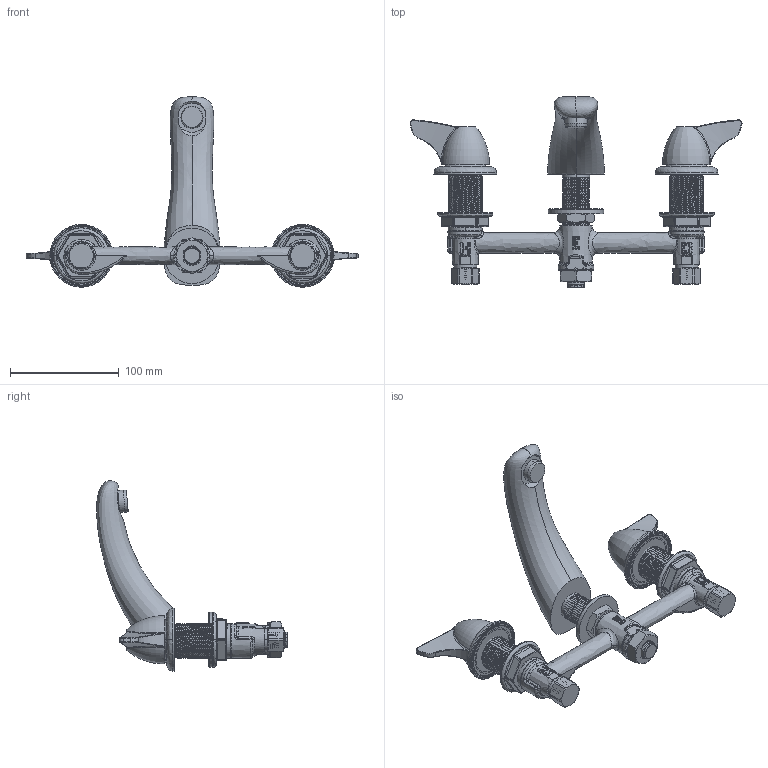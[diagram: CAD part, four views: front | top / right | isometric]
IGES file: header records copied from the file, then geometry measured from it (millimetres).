
Start section:  PTC IGES file: 404-1000AB.igs
Global section: file name: 404-1000AB.igs; native system: Creo Parametric by PTC Inc.; preprocessor: 2017260; author: usch_engrender; organization: Unknown; date: 20180531.152952; units: inch
Bounding box: 304.8 x 175.15 x 174.81 mm (x, y, z)
Surface area: 124356.7 mm2 (no closed solid volume)
Topology: 0 solids, 51 shells, 1095 faces, 2949 edges, 1883 vertices
Faces by surface type: revolution 618, bspline 477
